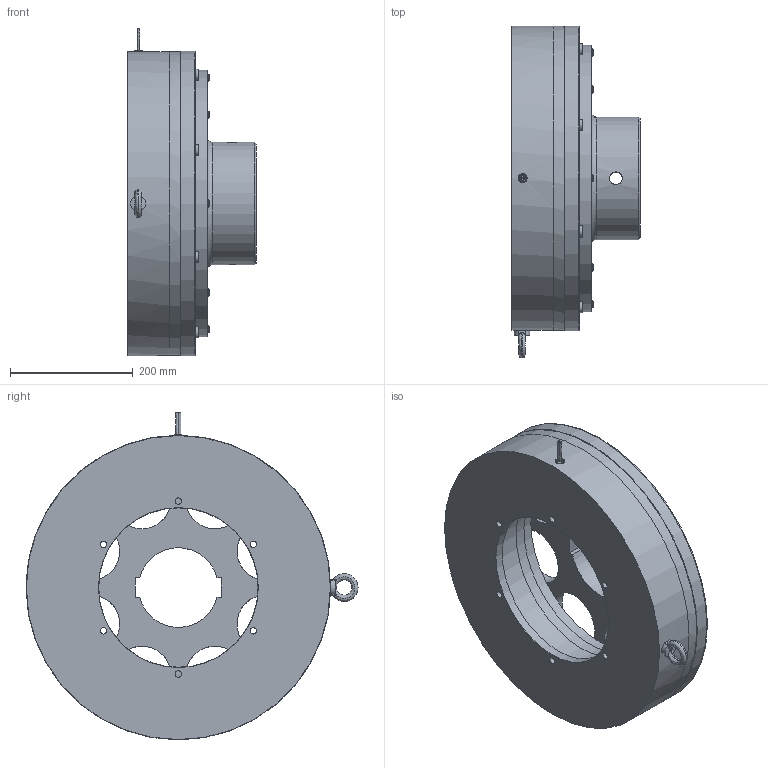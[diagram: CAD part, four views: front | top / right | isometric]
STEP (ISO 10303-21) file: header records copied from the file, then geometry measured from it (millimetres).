
FILE_DESCRIPTION(/* description */ (''),/* implementation_level */ '2;1');
FILE_NAME(/* name */ 'X:\INVENTOR\DISEGNI\08_Freni_Friz_Elettmag_Monodisco\08_28 EMFL_DF\EMFL_DF STEP\08_28_500_12 EMFL500_DF-C-ME@STEP.stp',/* time_stamp */ '2018-04-23T11:00:13+02:00',/* author */ ('stefano'),/* organization */ (''),/* preprocessor_version */ 'ST-DEVELOPER v17',/* originating_system */ 'Autodesk Inventor 2018',/* authorisation */ '');
FILE_SCHEMA (('AUTOMOTIVE_DESIGN { 1 0 10303 214 3 1 1 }'));
Length unit declared in the file: millimetre
Products named in the file (1): 08_28_500_12 EMFL500_DF-C-ME_Substitute_1
Bounding box: 210 x 541.5 x 534.72 mm (x, y, z)
Volume: 15912722.5 mm3; surface area: 1322077.8 mm2
Topology: 4 solids, 4 shells, 578 faces, 1739 edges, 1157 vertices
Faces by surface type: cylinder 307, plane 203, cone 52, torus 9, bspline 7
Full cylindrical faces by diameter (mm): 5 x16, 10.5 x6, 12 x9, 15 x1, 18 x24, 20 x16, 20.752 x2, 95 x8, 200 x1, 260 x1, 302 x2, 315 x1, 324 x1, 368 x1, 435 x1, 458 x1, 496 x2, 497 x2
Entity records: 21838 total; most frequent: CARTESIAN_POINT 4580, DIRECTION 3938, ORIENTED_EDGE 3470, EDGE_CURVE 1735, AXIS2_PLACEMENT_3D 1727, VERTEX_POINT 1158, CIRCLE 1137, EDGE_LOOP 728
